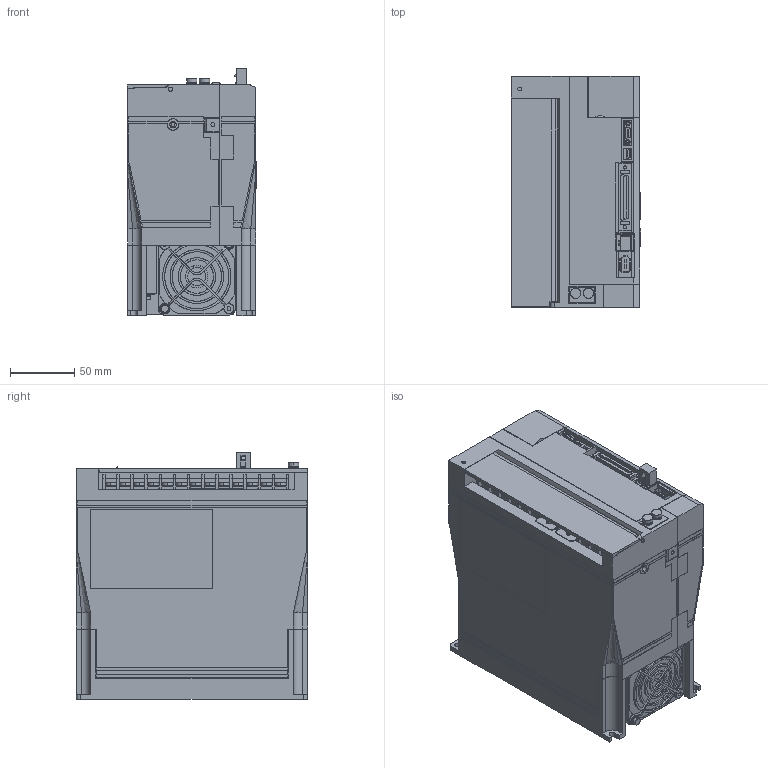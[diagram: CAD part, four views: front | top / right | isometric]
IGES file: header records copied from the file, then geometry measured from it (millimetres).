
Start section: SolidWorks IGES file using analytic representation for surfaces
Global section: file name: C:\YASKAWA\sgdv_200a0_a.IGS; native system: SolidWorks 2006 by SolidWorks Corporation; preprocessor: SolidWorks 2006 by SolidWorks Corporation; author: yamanouchi; date: 080617.172145; units: millimetre
Bounding box: 100.5 x 180 x 193 mm (x, y, z)
Surface area: 240819.1 mm2 (no closed solid volume)
Topology: 0 solids, 0 shells, 2046 faces, 19606 edges, 19606 vertices
Faces by surface type: bspline 1661, revolution 385
